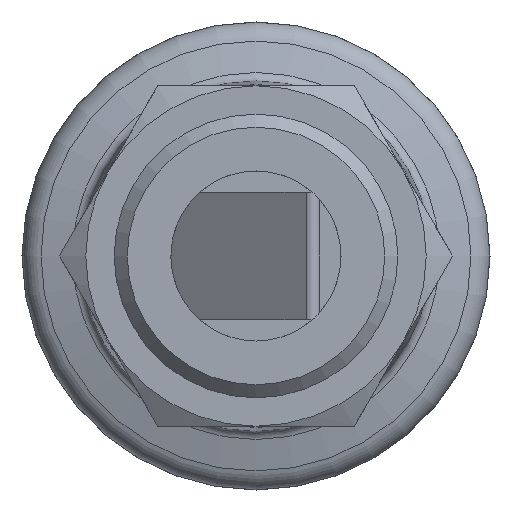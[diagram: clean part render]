
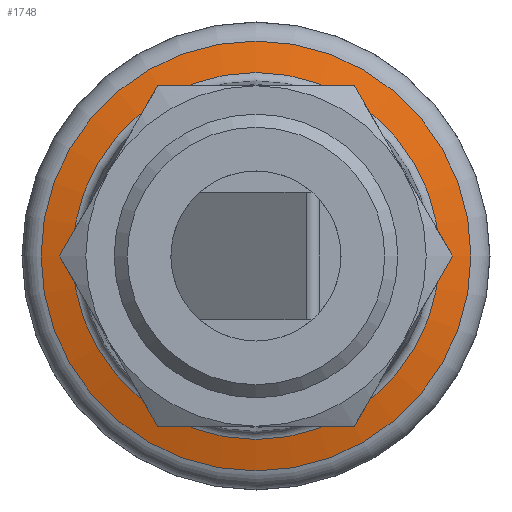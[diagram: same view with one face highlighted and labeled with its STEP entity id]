
A CAD part, front view. The second image highlights one B-rep face of the part: STEP entity #1748.
In plain terms, the highlighted conical face has half-angle 75 degrees and reference radius 15.156 mm.
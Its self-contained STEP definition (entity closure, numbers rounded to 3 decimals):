
#52=CONICAL_SURFACE('',#1895,15.156,1.309);
#158=CIRCLE('',#1894,15.156);
#159=CIRCLE('',#1896,12.938);
#410=ORIENTED_EDGE('',*,*,#597,.F.);
#411=ORIENTED_EDGE('',*,*,#596,.T.);
#596=EDGE_CURVE('',#705,#705,#158,.T.);
#597=EDGE_CURVE('',#706,#706,#159,.T.);
#705=VERTEX_POINT('',#2685);
#706=VERTEX_POINT('',#2688);
#906=EDGE_LOOP('',(#410));
#907=EDGE_LOOP('',(#411));
#1028=FACE_BOUND('',#906,.T.);
#1029=FACE_BOUND('',#907,.T.);
#1748=ADVANCED_FACE('',(#1028,#1029),#52,.T.);
#1894=AXIS2_PLACEMENT_3D('',#2684,#2206,#2207);
#1895=AXIS2_PLACEMENT_3D('',#2686,#2208,#2209);
#1896=AXIS2_PLACEMENT_3D('',#2687,#2210,#2211);
#2206=DIRECTION('',(0.,-1.,0.));
#2207=DIRECTION('',(0.,0.,-1.));
#2208=DIRECTION('',(0.,1.,0.));
#2209=DIRECTION('',(0.,0.,1.));
#2210=DIRECTION('',(0.,-1.,0.));
#2211=DIRECTION('',(0.,0.,-1.));
#2684=CARTESIAN_POINT('',(0.,65.94,0.));
#2685=CARTESIAN_POINT('',(0.,65.94,-15.156));
#2686=CARTESIAN_POINT('',(0.,65.94,0.));
#2687=CARTESIAN_POINT('',(0.,65.346,0.));
#2688=CARTESIAN_POINT('',(0.,65.346,-12.938));
